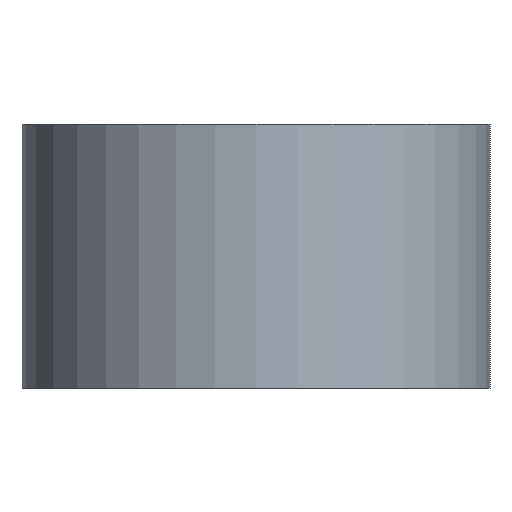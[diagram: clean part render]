
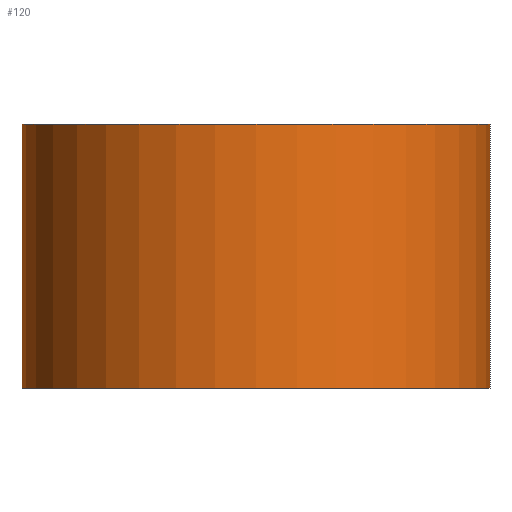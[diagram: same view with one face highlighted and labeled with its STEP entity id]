
A CAD part, front view. The second image highlights one B-rep face of the part: STEP entity #120.
In plain terms, the highlighted cylindrical face has radius 117 mm (diameter 234 mm), a partial arc.
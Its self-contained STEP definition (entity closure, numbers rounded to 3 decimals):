
#64=CARTESIAN_POINT('Axis2P3D Location',(0.,0.,66.)) ;
#69=CARTESIAN_POINT('Line Origine',(117.,0.,66.)) ;
#73=CARTESIAN_POINT('Vertex',(117.,0.,0.)) ;
#75=CARTESIAN_POINT('Vertex',(117.,0.,132.)) ;
#82=CARTESIAN_POINT('Vertex',(-117.,0.,0.)) ;
#85=CARTESIAN_POINT('Line Origine',(-117.,0.,66.)) ;
#89=CARTESIAN_POINT('Vertex',(-117.,0.,132.)) ;
#104=CARTESIAN_POINT('Axis2P3D Location',(0.,0.,0.)) ;
#109=CARTESIAN_POINT('Axis2P3D Location',(0.,0.,132.)) ;
#65=DIRECTION('Axis2P3D Direction',(0.,0.,1.)) ;
#66=DIRECTION('Axis2P3D XDirection',(1.,0.,0.)) ;
#70=DIRECTION('Vector Direction',(0.,0.,1.)) ;
#86=DIRECTION('Vector Direction',(0.,0.,1.)) ;
#105=DIRECTION('Axis2P3D Direction',(0.,0.,1.)) ;
#110=DIRECTION('Axis2P3D Direction',(0.,0.,1.)) ;
#67=AXIS2_PLACEMENT_3D('Cylinder Axis2P3D',#64,#65,#66) ;
#106=AXIS2_PLACEMENT_3D('Circle Axis2P3D',#104,#105,$) ;
#111=AXIS2_PLACEMENT_3D('Circle Axis2P3D',#109,#110,$) ;
#115=ORIENTED_EDGE('',*,*,#91,.F.) ;
#116=ORIENTED_EDGE('',*,*,#108,.T.) ;
#117=ORIENTED_EDGE('',*,*,#77,.T.) ;
#118=ORIENTED_EDGE('',*,*,#113,.F.) ;
#71=VECTOR('Line Direction',#70,1.) ;
#87=VECTOR('Line Direction',#86,1.) ;
#120=ADVANCED_FACE('PartBody',(#119),#68,.T.) ;
#107=CIRCLE('generated circle',#106,117.) ;
#112=CIRCLE('generated circle',#111,117.) ;
#68=CYLINDRICAL_SURFACE('generated cylinder',#67,117.) ;
#77=EDGE_CURVE('',#74,#76,#72,.T.) ;
#91=EDGE_CURVE('',#83,#90,#88,.T.) ;
#108=EDGE_CURVE('',#83,#74,#107,.T.) ;
#113=EDGE_CURVE('',#90,#76,#112,.T.) ;
#114=EDGE_LOOP('',(#115,#116,#117,#118)) ;
#119=FACE_OUTER_BOUND('',#114,.T.) ;
#72=LINE('Line',#69,#71) ;
#88=LINE('Line',#85,#87) ;
#74=VERTEX_POINT('',#73) ;
#76=VERTEX_POINT('',#75) ;
#83=VERTEX_POINT('',#82) ;
#90=VERTEX_POINT('',#89) ;
